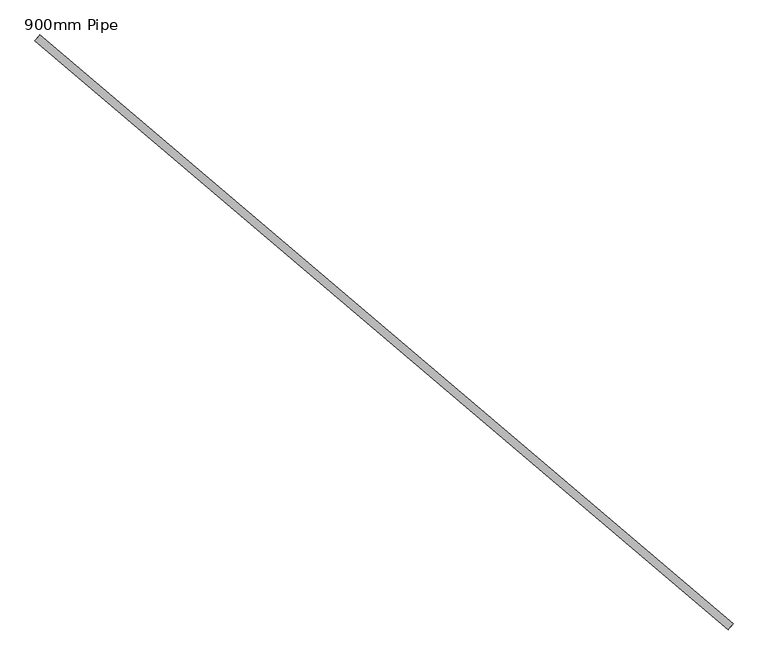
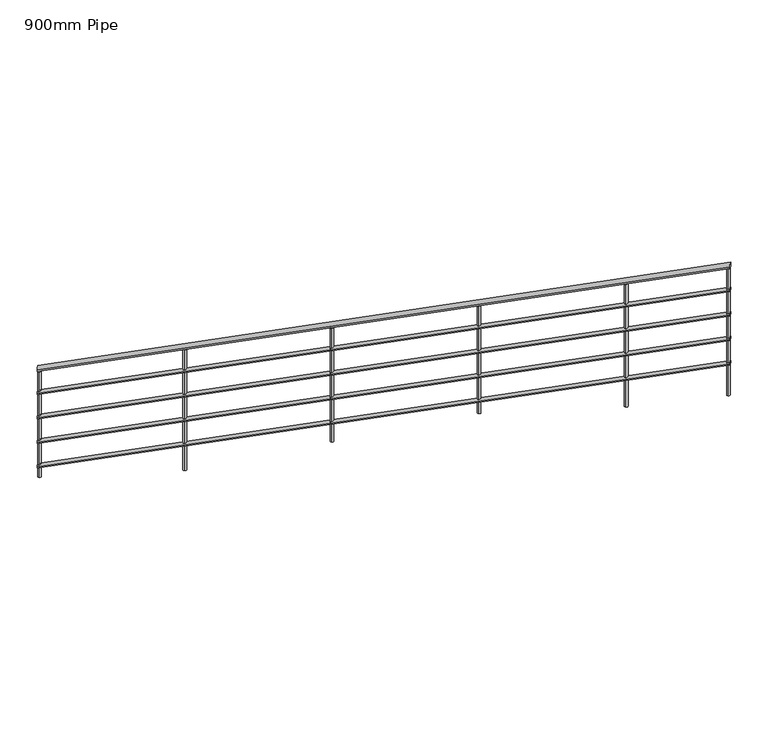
"""IFC4 building model written with IfcOpenShell, lengths in millimetres: railing geometry, 900mm Pipe."""

import ifcopenshell
import ifcopenshell.guid

model = None  # the IFC model being written
_history = None  # IfcOwnerHistory: only IFC2X3 demands one
_inside = {}  # id of a spatial element -> (the spatial element, [elements in it])
_under = {}  # id of a project, library or spatial element -> (it, [spatial elements below it])
_declared = {}  # id of a project -> (the project, [libraries it declares])
_typed = {}  # id of a type object -> (the type object, [elements of that type])
_made_of = {}  # id of a material, layer set ... -> (it, [elements and type objects made of it])


def new_model(schema):
    """Start an empty IFC model of exactly this schema.

    Asked for "IFC4X3", IfcOpenShell would pick the latest addendum, in which some entities
    have other attributes; the version numbers below select the first issue.
    IFC2X3 requires an IfcOwnerHistory on every rooted entity: one is made here for all.
    """
    global model, _history
    if schema == "IFC4X3":
        model = ifcopenshell.file(schema_version=(4, 3, 0, 0))
    else:
        model = ifcopenshell.file(schema=schema)
    _inside.clear()
    _under.clear()
    _declared.clear()
    _typed.clear()
    _made_of.clear()
    _history = None
    if model.schema == "IFC2X3":
        org = make("IfcOrganization", Name="unknown")
        user = make(
            "IfcPersonAndOrganization",
            ThePerson=make("IfcPerson", FamilyName="unknown"),
            TheOrganization=org,
        )
        app = make(
            "IfcApplication",
            ApplicationDeveloper=org,
            Version="unknown",
            ApplicationFullName="unknown",
            ApplicationIdentifier="unknown",
        )
        _history = make(
            "IfcOwnerHistory",
            OwningUser=user,
            OwningApplication=app,
            ChangeAction="ADDED",
            CreationDate=0,
        )
    return model


def make(cls, **values):
    """One entity of the class cls with the attributes given. An attribute that is None is left unset."""
    return model.create_entity(
        cls, **{name: value for name, value in values.items() if value is not None}
    )


def rooted(cls, **values):
    """An entity with a GlobalId (a new one), such as an element, a storey or a relation."""
    return make(cls, GlobalId=ifcopenshell.guid.new(), OwnerHistory=_history, **values)


def si_unit(unit_type, name, prefix=None):
    """IfcSIUnit, for example si_unit("LENGTHUNIT", "METRE", prefix="MILLI")."""
    return make("IfcSIUnit", UnitType=unit_type, Prefix=prefix, Name=name)


def assignment(units):
    """IfcUnitAssignment: the units of a project."""
    return None if units is None else make("IfcUnitAssignment", Units=units)


def point(xyz):
    """IfcCartesianPoint."""
    return None if xyz is None else make("IfcCartesianPoint", Coordinates=xyz)


def direction(xyz):
    """IfcDirection."""
    return None if xyz is None else make("IfcDirection", DirectionRatios=xyz)


def frame(location, z_axis=None, x_axis=None):
    """IfcAxis2Placement3D, a coordinate frame: its origin and axes. An axis left out is left unset."""
    return make(
        "IfcAxis2Placement3D",
        Location=point(location),
        Axis=direction(z_axis),
        RefDirection=direction(x_axis),
    )


def origin():
    """The frame at (0, 0, 0) with its axes left unset."""
    return frame((0.0, 0.0, 0.0))


def place(relative_to, where):
    """IfcLocalPlacement: puts the frame where relative to a parent placement (None: the world)."""
    return make(
        "IfcLocalPlacement", PlacementRelTo=relative_to, RelativePlacement=where
    )


def context(
    kind, dimensions, precision=None, world=None, true_north=None, identifier=None
):
    """IfcGeometricRepresentationContext, for example the 3D "Model" context."""
    return make(
        "IfcGeometricRepresentationContext",
        ContextIdentifier=identifier,
        ContextType=kind,
        CoordinateSpaceDimension=dimensions,
        Precision=precision,
        WorldCoordinateSystem=world,
        TrueNorth=true_north,
    )


def project(units=None, contexts=None):
    """IfcProject with its units and contexts."""
    return rooted(
        "IfcProject",
        Name="project",
        RepresentationContexts=contexts,
        UnitsInContext=assignment(units),
    )


def spatial(cls, under=None, at=None, **own):
    """A site, building, storey or space (cls), placed at a placement, below another one or the project."""
    s = rooted(cls, ObjectPlacement=at, **own)
    if under is not None:
        _under.setdefault(under.id(), (under, []))[1].append(s)
    return s


def circle_curve(where, radius):
    """IfcCircle in the frame where."""
    return make("IfcCircle", Position=where, Radius=radius)


def ellipse_curve(where, semi_axis1, semi_axis2):
    """IfcEllipse in the frame where."""
    return make(
        "IfcEllipse", Position=where, SemiAxis1=semi_axis1, SemiAxis2=semi_axis2
    )


def shape(context_of_items, identifier, shape_type, items):
    """IfcShapeRepresentation: the items that make up one representation, for example the "Body"."""
    return make(
        "IfcShapeRepresentation",
        ContextOfItems=context_of_items,
        RepresentationIdentifier=identifier,
        RepresentationType=shape_type,
        Items=items,
    )


def source(mapping_origin, context_of_items, identifier, shape_type, items):
    """IfcRepresentationMap: a shape defined once, which mapped items show again and again."""
    return make(
        "IfcRepresentationMap",
        MappingOrigin=mapping_origin,
        MappedRepresentation=shape(context_of_items, identifier, shape_type, items),
    )


def transform(
    local_origin,
    x_axis=None,
    y_axis=None,
    z_axis=None,
    scale=None,
    scale2=None,
    scale3=None,
    uniform=True,
):
    """IfcCartesianTransformationOperator3D, or its non-uniform kind. x_axis, y_axis, z_axis: its Axis1, 2, 3."""
    if uniform:
        return make(
            "IfcCartesianTransformationOperator3D",
            Axis1=direction(x_axis),
            Axis2=direction(y_axis),
            LocalOrigin=point(local_origin),
            Scale=scale,
            Axis3=direction(z_axis),
        )
    return make(
        "IfcCartesianTransformationOperator3DnonUniform",
        Axis1=direction(x_axis),
        Axis2=direction(y_axis),
        LocalOrigin=point(local_origin),
        Scale=scale,
        Axis3=direction(z_axis),
        Scale2=scale2,
        Scale3=scale3,
    )


def mapped(mapping_source, mapping_target):
    """IfcMappedItem: shows the shape of a source again, moved by a transform."""
    return make(
        "IfcMappedItem", MappingSource=mapping_source, MappingTarget=mapping_target
    )


def made_of(thing, what):
    """Note that an element or type object is made of a material, layer set ...; save() writes the relation."""
    if what is not None:
        _made_of.setdefault(what.id(), (what, []))[1].append(thing)
    return thing


def element(
    cls,
    number,
    at=None,
    inside=None,
    cuts=None,
    type_object=None,
    material=None,
    context=None,
    identifier="Body",
    shape_type=None,
    held_by="IfcProductDefinitionShape",
    body=None,
    shapes=None,
    **own,
):
    """One element of the class cls, such as IfcWall. Its Tag is "e" and its number.

    at: its placement. inside: the storey or other place that contains it. cuts: it is an
    opening in that element (IfcRelVoidsElement). A single representation is given by context,
    identifier, shape_type and body (its items); several are given by shapes. held_by: the class
    of the entity that holds the representations. save() writes the other relations.
    """
    e = rooted(cls, Tag="e%d" % number, ObjectPlacement=at, **own)
    if body is not None:
        shapes = [shape(context, identifier, shape_type, body)]
    if shapes is not None:
        e.Representation = make(held_by, Representations=shapes)
    if inside is not None:
        _inside.setdefault(inside.id(), (inside, []))[1].append(e)
    if cuts is not None:
        rooted(
            "IfcRelVoidsElement", RelatingBuildingElement=cuts, RelatedOpeningElement=e
        )
    if type_object is not None:
        _typed.setdefault(type_object.id(), (type_object, []))[1].append(e)
    return made_of(e, material)


def aggregate(whole, parts):
    """IfcRelAggregates: a whole, such as a stair, and the parts it consists of."""
    return rooted("IfcRelAggregates", RelatingObject=whole, RelatedObjects=parts)


def save(model, path):
    """Write the relations noted so far, then the file.

    IfcRelAggregates (storeys below a building ...), IfcRelContainedInSpatialStructure (elements
    in a storey), IfcRelDefinesByType, IfcRelAssociatesMaterial and IfcRelDeclares: one each for
    every whole, place, type object, material and project.
    """
    for whole, parts in _under.values():
        aggregate(whole, parts)
    for where, things in _inside.values():
        rooted(
            "IfcRelContainedInSpatialStructure",
            RelatedElements=things,
            RelatingStructure=where,
        )
    for kind, things in _typed.values():
        rooted("IfcRelDefinesByType", RelatedObjects=things, RelatingType=kind)
    for what, things in _made_of.values():
        rooted("IfcRelAssociatesMaterial", RelatedObjects=things, RelatingMaterial=what)
    for by, libraries in _declared.values():
        rooted("IfcRelDeclares", RelatingContext=by, RelatedDefinitions=libraries)
    model.write(path)


def plane_surface(at):
    """IfcPlane: the flat surface through the origin of the frame at, square to its z axis."""
    return make("IfcPlane", Position=at)


def cylinder_surface(at, radius):
    """IfcCylindricalSurface: all points at the distance radius from the z axis of the frame at."""
    return make("IfcCylindricalSurface", Position=at, Radius=radius)


def advanced_brep(points, edges, surfaces, faces):
    """IfcAdvancedBrep: a solid bounded by faces that lie on surfaces and meet in shared edges.

    An edge is (start, end): straight between two places in points (the first is 0);
    or (start, end, curve); or (start, end, curve, False) where it runs against its curve.
    A face is (place in surfaces, loops), or (place, loops, False) where it looks against
    its surface's normal. A loop lists edges by number (the first is 1), with a minus sign
    where the edge is run from its end to its start. The first loop is the outer one.
    """
    corners = [point(p) for p in points]
    vertices = [make("IfcVertexPoint", VertexGeometry=c) for c in corners]
    made = []
    for start, end, *more in edges:
        made.append(
            make(
                "IfcEdgeCurve",
                EdgeStart=vertices[start],
                EdgeEnd=vertices[end],
                EdgeGeometry=more[0] if more else make("IfcPolyline", Points=[corners[start], corners[end]]),
                SameSense=more[1] if len(more) > 1 else True,
            )
        )
    hull = []
    for where, loops, *sense in faces:
        bounds = []
        for j, loop in enumerate(loops):
            ring = [make("IfcOrientedEdge", EdgeElement=made[abs(k) - 1], Orientation=k > 0) for k in loop]
            bounds.append(
                make(
                    "IfcFaceOuterBound" if j == 0 else "IfcFaceBound",
                    Bound=make("IfcEdgeLoop", EdgeList=ring),
                    Orientation=True,
                )
            )
        hull.append(make("IfcAdvancedFace", Bounds=bounds, FaceSurface=surfaces[where], SameSense=sense[0] if sense else True))
    return make("IfcAdvancedBrep", Outer=make("IfcClosedShell", CfsFaces=hull))


def railing_900mm_pipe_89af0fe0(model_context):
    return source(origin(), model_context, "Body", "AdvancedBrep", [
        advanced_brep(
        [(808926.9693591, 44297.326696, 2758.386247), (808901.0747791, 44266.8394737, 2758.386247), (812514.7713681, 41249.9967354, 4192.7391882), (812488.8767881, 41219.5095131, 4192.7391882)],
        [
            (0, 1, ellipse_curve(frame((808914.0220691, 44282.0830849, 2758.386247), z_axis=(-0.7621805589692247, 0.6473644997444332, 0.0), x_axis=(0.0, 0.0, -1.0)), 20.9078706, 20.0)),
            (1, 0, ellipse_curve(frame((808914.0220691, 44282.0830849, 2758.386247), z_axis=(-0.7621805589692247, 0.6473644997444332, 0.0), x_axis=(0.0, 0.0, -1.0)), 20.9078706, 20.0)),
            (2, 3, ellipse_curve(frame((812501.8240781, 41234.7531243, 4192.7391882), z_axis=(0.7621805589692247, -0.6473644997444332, 0.0), x_axis=(0.0, 0.0, -1.0)), 20.9078706, 20.0)),
            (3, 2, ellipse_curve(frame((812501.8240781, 41234.7531243, 4192.7391882), z_axis=(0.7621805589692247, -0.6473644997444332, 0.0), x_axis=(0.0, 0.0, -1.0)), 20.9078706, 20.0)),
            (0, 2),
            (3, 1),
        ],
        [
            plane_surface(frame((808914.0220691, 44282.0830849, 2779.2941176), z_axis=(-0.7621805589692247, 0.6473644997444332, 0.0), x_axis=(0.6473644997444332, 0.7621805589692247, 0.0))),
            plane_surface(frame((812501.8240781, 41234.7531243, 4213.6470588), z_axis=(0.7621805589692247, -0.6473644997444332, 0.0), x_axis=(0.6473644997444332, 0.7621805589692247, 0.0))),
            cylinder_surface(frame((808918.4652448, 44278.3092361, 2760.1625663), z_axis=(-0.7290848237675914, 0.6192543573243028, -0.29147789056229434), x_axis=(-0.6473644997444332, -0.7621805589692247, 0.0)), 20.0),
        ],
        [
            (0, [[1, 2]]),
            (1, [[3, 4]]),
            (2, [[-1, 5, -4, 6]]),
            (2, [[-2, -6, -3, -5]]),
        ],
    ),
        advanced_brep(
        [(808923.7325366, 44293.5157932, 2563.6132147), (808904.3116016, 44270.6503765, 2563.6132147), (812511.5345456, 41246.1858326, 3997.9661558), (812492.1136106, 41223.3204159, 3997.9661558)],
        [
            (0, 1, ellipse_curve(frame((808914.0220691, 44282.0830849, 2563.6132147), z_axis=(-0.7621805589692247, 0.6473644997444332, 0.0), x_axis=(0.0, 0.0, -1.0)), 15.680903, 15.0)),
            (1, 0, ellipse_curve(frame((808914.0220691, 44282.0830849, 2563.6132147), z_axis=(-0.7621805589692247, 0.6473644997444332, 0.0), x_axis=(0.0, 0.0, -1.0)), 15.680903, 15.0)),
            (2, 3, ellipse_curve(frame((812501.8240781, 41234.7531243, 3997.9661558), z_axis=(0.7621805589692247, -0.6473644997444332, 0.0), x_axis=(0.0, 0.0, -1.0)), 15.680903, 15.0)),
            (3, 2, ellipse_curve(frame((812501.8240781, 41234.7531243, 3997.9661558), z_axis=(0.7621805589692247, -0.6473644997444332, 0.0), x_axis=(0.0, 0.0, -1.0)), 15.680903, 15.0)),
            (0, 2),
            (3, 1),
        ],
        [
            plane_surface(frame((808914.0220691, 44282.0830849, 2579.2941176), z_axis=(-0.7621805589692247, 0.6473644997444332, 0.0), x_axis=(0.6473644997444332, 0.7621805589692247, 0.0))),
            plane_surface(frame((812501.8240781, 41234.7531243, 4013.6470588), z_axis=(0.7621805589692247, -0.6473644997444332, 0.0), x_axis=(0.6473644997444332, 0.7621805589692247, 0.0))),
            cylinder_surface(frame((808917.3544508, 44279.2526983, 2564.9454542), z_axis=(-0.7290848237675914, 0.6192543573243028, -0.29147789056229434), x_axis=(-0.6473644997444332, -0.7621805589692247, 0.0)), 15.0),
        ],
        [
            (0, [[1, 2]]),
            (1, [[3, 4]]),
            (2, [[-1, 5, -4, 6]]),
            (2, [[-2, -6, -3, -5]]),
        ],
    ),
        advanced_brep(
        [(808923.7325366, 44293.5157932, 2363.6132147), (808904.3116016, 44270.6503765, 2363.6132147), (812511.5345456, 41246.1858326, 3797.9661558), (812492.1136106, 41223.3204159, 3797.9661558)],
        [
            (0, 1, ellipse_curve(frame((808914.0220691, 44282.0830849, 2363.6132147), z_axis=(-0.7621805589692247, 0.6473644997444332, 0.0), x_axis=(0.0, 0.0, -1.0)), 15.680903, 15.0)),
            (1, 0, ellipse_curve(frame((808914.0220691, 44282.0830849, 2363.6132147), z_axis=(-0.7621805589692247, 0.6473644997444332, 0.0), x_axis=(0.0, 0.0, -1.0)), 15.680903, 15.0)),
            (2, 3, ellipse_curve(frame((812501.8240781, 41234.7531243, 3797.9661558), z_axis=(0.7621805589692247, -0.6473644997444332, 0.0), x_axis=(0.0, 0.0, -1.0)), 15.680903, 15.0)),
            (3, 2, ellipse_curve(frame((812501.8240781, 41234.7531243, 3797.9661558), z_axis=(0.7621805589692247, -0.6473644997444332, 0.0), x_axis=(0.0, 0.0, -1.0)), 15.680903, 15.0)),
            (0, 2),
            (3, 1),
        ],
        [
            plane_surface(frame((808914.0220691, 44282.0830849, 2379.2941176), z_axis=(-0.7621805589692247, 0.6473644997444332, 0.0), x_axis=(0.6473644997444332, 0.7621805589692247, 0.0))),
            plane_surface(frame((812501.8240781, 41234.7531243, 3813.6470588), z_axis=(0.7621805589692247, -0.6473644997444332, 0.0), x_axis=(0.6473644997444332, 0.7621805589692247, 0.0))),
            cylinder_surface(frame((808917.3544508, 44279.2526983, 2364.9454542), z_axis=(-0.7290848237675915, 0.6192543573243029, -0.29147789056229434), x_axis=(-0.6473644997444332, -0.7621805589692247, 0.0)), 15.0),
        ],
        [
            (0, [[1, 2]]),
            (1, [[3, 4]]),
            (2, [[-1, 5, -4, 6]]),
            (2, [[-2, -6, -3, -5]]),
        ],
    ),
        advanced_brep(
        [(808923.7325366, 44293.5157932, 2163.6132147), (808904.3116016, 44270.6503765, 2163.6132147), (812511.5345456, 41246.1858326, 3597.9661558), (812492.1136106, 41223.3204159, 3597.9661558)],
        [
            (0, 1, ellipse_curve(frame((808914.0220691, 44282.0830849, 2163.6132147), z_axis=(-0.7621805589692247, 0.6473644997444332, 0.0), x_axis=(0.0, 0.0, -1.0)), 15.680903, 15.0)),
            (1, 0, ellipse_curve(frame((808914.0220691, 44282.0830849, 2163.6132147), z_axis=(-0.7621805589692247, 0.6473644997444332, 0.0), x_axis=(0.0, 0.0, -1.0)), 15.680903, 15.0)),
            (2, 3, ellipse_curve(frame((812501.8240781, 41234.7531243, 3597.9661558), z_axis=(0.7621805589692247, -0.6473644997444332, 0.0), x_axis=(0.0, 0.0, -1.0)), 15.680903, 15.0)),
            (3, 2, ellipse_curve(frame((812501.8240781, 41234.7531243, 3597.9661558), z_axis=(0.7621805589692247, -0.6473644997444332, 0.0), x_axis=(0.0, 0.0, -1.0)), 15.680903, 15.0)),
            (0, 2),
            (3, 1),
        ],
        [
            plane_surface(frame((808914.0220691, 44282.0830849, 2179.2941176), z_axis=(-0.7621805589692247, 0.6473644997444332, 0.0), x_axis=(0.6473644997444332, 0.7621805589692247, 0.0))),
            plane_surface(frame((812501.8240781, 41234.7531243, 3613.6470588), z_axis=(0.7621805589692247, -0.6473644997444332, 0.0), x_axis=(0.6473644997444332, 0.7621805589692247, 0.0))),
            cylinder_surface(frame((808917.3544508, 44279.2526983, 2164.9454542), z_axis=(-0.7290848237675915, 0.6192543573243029, -0.29147789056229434), x_axis=(-0.6473644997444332, -0.7621805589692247, 0.0)), 15.0),
        ],
        [
            (0, [[1, 2]]),
            (1, [[3, 4]]),
            (2, [[-1, 5, -4, 6]]),
            (2, [[-2, -6, -3, -5]]),
        ],
    ),
        advanced_brep(
        [(808923.7325366, 44293.5157932, 1963.6132147), (808904.3116016, 44270.6503765, 1963.6132147), (812511.5345456, 41246.1858326, 3397.9661558), (812492.1136106, 41223.3204159, 3397.9661558)],
        [
            (0, 1, ellipse_curve(frame((808914.0220691, 44282.0830849, 1963.6132147), z_axis=(-0.7621805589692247, 0.6473644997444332, 0.0), x_axis=(0.0, 0.0, -1.0)), 15.680903, 15.0)),
            (1, 0, ellipse_curve(frame((808914.0220691, 44282.0830849, 1963.6132147), z_axis=(-0.7621805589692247, 0.6473644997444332, 0.0), x_axis=(0.0, 0.0, -1.0)), 15.680903, 15.0)),
            (2, 3, ellipse_curve(frame((812501.8240781, 41234.7531243, 3397.9661558), z_axis=(0.7621805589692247, -0.6473644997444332, 0.0), x_axis=(0.0, 0.0, -1.0)), 15.680903, 15.0)),
            (3, 2, ellipse_curve(frame((812501.8240781, 41234.7531243, 3397.9661558), z_axis=(0.7621805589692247, -0.6473644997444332, 0.0), x_axis=(0.0, 0.0, -1.0)), 15.680903, 15.0)),
            (0, 2),
            (3, 1),
        ],
        [
            plane_surface(frame((808914.0220691, 44282.0830849, 1979.2941176), z_axis=(-0.7621805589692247, 0.6473644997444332, 0.0), x_axis=(0.6473644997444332, 0.7621805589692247, 0.0))),
            plane_surface(frame((812501.8240781, 41234.7531243, 3413.6470588), z_axis=(0.7621805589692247, -0.6473644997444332, 0.0), x_axis=(0.6473644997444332, 0.7621805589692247, 0.0))),
            cylinder_surface(frame((808917.3544508, 44279.2526983, 1964.9454542), z_axis=(-0.7290848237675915, 0.6192543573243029, -0.29147789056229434), x_axis=(-0.6473644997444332, -0.7621805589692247, 0.0)), 15.0),
        ],
        [
            (0, [[1, 2]]),
            (1, [[3, 4]]),
            (2, [[-1, 5, -4, 6]]),
            (2, [[-2, -6, -3, -5]]),
        ],
    ),
        advanced_brep(
        [(811954.6522487, 41683.0978289, 3956.3147824), (811954.6522487, 41683.0978289, 2955.0588235), (811970.8363612, 41702.1523429, 2955.0588235), (811970.8363612, 41702.1523429, 3956.3147824)],
        [
            (0, 1),
            (1, 2, circle_curve(frame((811962.744305, 41692.6250859, 2955.0588235), z_axis=(0.0, 0.0, 1.0), x_axis=(0.6473644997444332, 0.7621805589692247, 0.0)), 12.5)),
            (2, 3),
            (3, 0, ellipse_curve(frame((811962.744305, 41692.6250859, 3956.3147824), z_axis=(0.2221587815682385, -0.1886924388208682, -0.9565775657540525), x_axis=(0.729084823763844, -0.6192543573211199, 0.2914778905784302)), 13.0674191, 12.5)),
            (0, 3, ellipse_curve(frame((811962.744305, 41692.6250859, 3956.3147824), z_axis=(0.2221587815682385, -0.1886924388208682, -0.9565775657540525), x_axis=(0.729084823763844, -0.6192543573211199, 0.2914778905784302)), 13.0674191, 12.5)),
            (2, 1, circle_curve(frame((811962.744305, 41692.6250859, 2955.0588235), z_axis=(0.0, 0.0, 1.0), x_axis=(0.6473644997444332, 0.7621805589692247, 0.0)), 12.5)),
        ],
        [
            cylinder_surface(frame((811962.744305, 41692.6250859, 2855.0588235), z_axis=(0.0, 0.0, 1.0), x_axis=(0.6473644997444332, 0.7621805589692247, 0.0)), 12.5),
            plane_surface(frame((811997.9829315, 41695.4954874, 3963.9325099), z_axis=(-0.2221587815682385, 0.1886924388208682, 0.9565775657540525), x_axis=(-0.6473644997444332, -0.7621805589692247, 0.0))),
            plane_surface(frame((811959.8739035, 41727.8637124, 2955.0588235), z_axis=(0.0, 0.0, -1.0), x_axis=(-0.6473644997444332, -0.7621805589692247, 0.0))),
        ],
        [
            (0, [[1, 2, 3, 4]]),
            (0, [[-1, 5, -3, 6]]),
            (1, [[-4, -5]]),
            (2, [[-2, -6]]),
        ],
    ),
        advanced_brep(
        [(811192.4716898, 42330.4623286, 3651.6056809), (811192.4716898, 42330.4623286, 2775.7647059), (811208.6558023, 42349.5168426, 2775.7647059), (811208.6558023, 42349.5168426, 3651.6056809)],
        [
            (0, 1),
            (1, 2, circle_curve(frame((811200.563746, 42339.9895856, 2775.7647059), z_axis=(0.0, 0.0, 1.0), x_axis=(0.6473644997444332, 0.7621805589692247, 0.0)), 12.5)),
            (2, 3),
            (3, 0, ellipse_curve(frame((811200.563746, 42339.9895856, 3651.6056809), z_axis=(0.2221587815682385, -0.1886924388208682, -0.9565775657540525), x_axis=(0.729084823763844, -0.6192543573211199, 0.2914778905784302)), 13.0674191, 12.5)),
            (0, 3, ellipse_curve(frame((811200.563746, 42339.9895856, 3651.6056809), z_axis=(0.2221587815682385, -0.1886924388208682, -0.9565775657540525), x_axis=(0.729084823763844, -0.6192543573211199, 0.2914778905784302)), 13.0674191, 12.5)),
            (2, 1, circle_curve(frame((811200.563746, 42339.9895856, 2775.7647059), z_axis=(0.0, 0.0, 1.0), x_axis=(0.6473644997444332, 0.7621805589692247, 0.0)), 12.5)),
        ],
        [
            cylinder_surface(frame((811200.563746, 42339.9895856, 2675.7647059), z_axis=(0.0, 0.0, 1.0), x_axis=(0.6473644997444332, 0.7621805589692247, 0.0)), 12.5),
            plane_surface(frame((811235.8023725, 42342.8599871, 3659.2234084), z_axis=(-0.2221587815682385, 0.1886924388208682, 0.9565775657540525), x_axis=(-0.6473644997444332, -0.7621805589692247, 0.0))),
            plane_surface(frame((811197.6933445, 42375.2282121, 2775.7647059), z_axis=(0.0, 0.0, -1.0), x_axis=(-0.6473644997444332, -0.7621805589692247, 0.0))),
        ],
        [
            (0, [[1, 2, 3, 4]]),
            (0, [[-1, 5, -3, 6]]),
            (1, [[-4, -5]]),
            (2, [[-2, -6]]),
        ],
    ),
        advanced_brep(
        [(810430.2911308, 42977.8268284, 3346.8965794), (810430.2911308, 42977.8268284, 2417.1764706), (810446.4752433, 42996.8813424, 2417.1764706), (810446.4752433, 42996.8813424, 3346.8965794)],
        [
            (0, 1),
            (1, 2, circle_curve(frame((810438.3831871, 42987.3540854, 2417.1764706), z_axis=(0.0, 0.0, 1.0), x_axis=(0.6473644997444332, 0.7621805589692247, 0.0)), 12.5)),
            (2, 3),
            (3, 0, ellipse_curve(frame((810438.3831871, 42987.3540854, 3346.8965794), z_axis=(0.2221587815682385, -0.1886924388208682, -0.9565775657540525), x_axis=(0.729084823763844, -0.6192543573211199, 0.2914778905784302)), 13.0674191, 12.5)),
            (0, 3, ellipse_curve(frame((810438.3831871, 42987.3540854, 3346.8965794), z_axis=(0.2221587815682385, -0.1886924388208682, -0.9565775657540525), x_axis=(0.729084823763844, -0.6192543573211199, 0.2914778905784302)), 13.0674191, 12.5)),
            (2, 1, circle_curve(frame((810438.3831871, 42987.3540854, 2417.1764706), z_axis=(0.0, 0.0, 1.0), x_axis=(0.6473644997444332, 0.7621805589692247, 0.0)), 12.5)),
        ],
        [
            cylinder_surface(frame((810438.3831871, 42987.3540854, 2317.1764706), z_axis=(0.0, 0.0, 1.0), x_axis=(0.6473644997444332, 0.7621805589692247, 0.0)), 12.5),
            plane_surface(frame((810473.6218135, 42990.2244869, 3354.5143069), z_axis=(-0.2221587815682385, 0.1886924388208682, 0.9565775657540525), x_axis=(-0.6473644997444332, -0.7621805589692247, 0.0))),
            plane_surface(frame((810435.5127856, 43022.5927118, 2417.1764706), z_axis=(0.0, 0.0, -1.0), x_axis=(-0.6473644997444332, -0.7621805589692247, 0.0))),
        ],
        [
            (0, [[1, 2, 3, 4]]),
            (0, [[-1, 5, -3, 6]]),
            (1, [[-4, -5]]),
            (2, [[-2, -6]]),
        ],
    ),
        advanced_brep(
        [(809668.1105718, 43625.1913281, 3042.1874779), (809668.1105718, 43625.1913281, 2058.5882353), (809684.2946843, 43644.2458421, 2058.5882353), (809684.2946843, 43644.2458421, 3042.1874779)],
        [
            (0, 1),
            (1, 2, circle_curve(frame((809676.2026281, 43634.7185851, 2058.5882353), z_axis=(0.0, 0.0, 1.0), x_axis=(0.6473644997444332, 0.7621805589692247, 0.0)), 12.5)),
            (2, 3),
            (3, 0, ellipse_curve(frame((809676.2026281, 43634.7185851, 3042.1874779), z_axis=(0.22215878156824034, -0.18869243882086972, -0.9565775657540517), x_axis=(0.7290848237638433, -0.6192543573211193, 0.29147789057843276)), 13.0674191, 12.5)),
            (0, 3, ellipse_curve(frame((809676.2026281, 43634.7185851, 3042.1874779), z_axis=(0.22215878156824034, -0.18869243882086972, -0.9565775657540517), x_axis=(0.7290848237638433, -0.6192543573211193, 0.29147789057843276)), 13.0674191, 12.5)),
            (2, 1, circle_curve(frame((809676.2026281, 43634.7185851, 2058.5882353), z_axis=(0.0, 0.0, 1.0), x_axis=(0.6473644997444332, 0.7621805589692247, 0.0)), 12.5)),
        ],
        [
            cylinder_surface(frame((809676.2026281, 43634.7185851, 1958.5882353), z_axis=(0.0, 0.0, 1.0), x_axis=(0.6473644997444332, 0.7621805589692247, 0.0)), 12.5),
            plane_surface(frame((809711.4412546, 43637.5889866, 3049.8052054), z_axis=(-0.22215878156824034, 0.18869243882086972, 0.9565775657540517), x_axis=(-0.6473644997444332, -0.7621805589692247, 0.0))),
            plane_surface(frame((809673.3322266, 43669.9572116, 2058.5882353), z_axis=(0.0, 0.0, -1.0), x_axis=(-0.6473644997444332, -0.7621805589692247, 0.0))),
        ],
        [
            (0, [[1, 2, 3, 4]]),
            (0, [[-1, 5, -3, 6]]),
            (1, [[-4, -5]]),
            (2, [[-2, -6]]),
        ],
    ),
        advanced_brep(
        [(812484.2047649, 41233.3179235, 4168.0224538), (812484.2047649, 41233.3179235, 3134.3529412), (812500.3888774, 41252.3724375, 3134.3529412), (812500.3888774, 41252.3724375, 4168.0224538)],
        [
            (0, 1),
            (1, 2, circle_curve(frame((812492.2968211, 41242.8451805, 3134.3529412), z_axis=(0.0, 0.0, 1.0), x_axis=(0.6473644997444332, 0.7621805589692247, 0.0)), 12.5)),
            (2, 3),
            (3, 0, ellipse_curve(frame((812492.2968211, 41242.8451805, 4168.0224538), z_axis=(0.2221587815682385, -0.1886924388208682, -0.9565775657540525), x_axis=(0.729084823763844, -0.6192543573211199, 0.2914778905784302)), 13.0674191, 12.5)),
            (0, 3, ellipse_curve(frame((812492.2968211, 41242.8451805, 4168.0224538), z_axis=(0.2221587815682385, -0.1886924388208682, -0.9565775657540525), x_axis=(0.729084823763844, -0.6192543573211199, 0.2914778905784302)), 13.0674191, 12.5)),
            (2, 1, circle_curve(frame((812492.2968211, 41242.8451805, 3134.3529412), z_axis=(0.0, 0.0, 1.0), x_axis=(0.6473644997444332, 0.7621805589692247, 0.0)), 12.5)),
        ],
        [
            cylinder_surface(frame((812492.2968211, 41242.8451805, 3034.3529412), z_axis=(0.0, 0.0, 1.0), x_axis=(0.6473644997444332, 0.7621805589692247, 0.0)), 12.5),
            plane_surface(frame((812527.5354476, 41245.715582, 4175.6401813), z_axis=(-0.2221587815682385, 0.1886924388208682, 0.9565775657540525), x_axis=(-0.6473644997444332, -0.7621805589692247, 0.0))),
            plane_surface(frame((812489.4264197, 41278.083807, 3134.3529412), z_axis=(0.0, 0.0, -1.0), x_axis=(-0.6473644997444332, -0.7621805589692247, 0.0))),
        ],
        [
            (0, [[1, 2, 3, 4]]),
            (0, [[-1, 5, -3, 6]]),
            (1, [[-4, -5]]),
            (2, [[-2, -6]]),
        ],
    ),
        advanced_brep(
        [(808915.4572699, 44264.4637716, 2741.2872401), (808915.4572699, 44264.4637716, 1879.2941176), (808931.6413824, 44283.5182856, 1879.2941176), (808931.6413824, 44283.5182856, 2741.2872401)],
        [
            (0, 1),
            (1, 2, circle_curve(frame((808923.5493261, 44273.9910286, 1879.2941176), z_axis=(0.0, 0.0, 1.0), x_axis=(0.6473644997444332, 0.7621805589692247, 0.0)), 12.5)),
            (2, 3),
            (3, 0, ellipse_curve(frame((808923.5493261, 44273.9910286, 2741.2872401), z_axis=(0.22215878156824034, -0.18869243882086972, -0.9565775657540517), x_axis=(0.7290848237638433, -0.6192543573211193, 0.29147789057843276)), 13.0674191, 12.5)),
            (0, 3, ellipse_curve(frame((808923.5493261, 44273.9910286, 2741.2872401), z_axis=(0.22215878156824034, -0.18869243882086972, -0.9565775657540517), x_axis=(0.7290848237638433, -0.6192543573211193, 0.29147789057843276)), 13.0674191, 12.5)),
            (2, 1, circle_curve(frame((808923.5493261, 44273.9910286, 1879.2941176), z_axis=(0.0, 0.0, 1.0), x_axis=(0.6473644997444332, 0.7621805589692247, 0.0)), 12.5)),
        ],
        [
            cylinder_surface(frame((808923.5493261, 44273.9910286, 1779.2941176), z_axis=(0.0, 0.0, 1.0), x_axis=(0.6473644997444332, 0.7621805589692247, 0.0)), 12.5),
            plane_surface(frame((808958.7879526, 44276.8614301, 2748.9049677), z_axis=(-0.22215878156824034, 0.18869243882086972, 0.9565775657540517), x_axis=(-0.6473644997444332, -0.7621805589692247, 0.0))),
            plane_surface(frame((808920.6789246, 44309.2296551, 1879.2941176), z_axis=(0.0, 0.0, -1.0), x_axis=(-0.6473644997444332, -0.7621805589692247, 0.0))),
        ],
        [
            (0, [[1, 2, 3, 4]]),
            (0, [[-1, 5, -3, 6]]),
            (1, [[-4, -5]]),
            (2, [[-2, -6]]),
        ],
    ),
    ])


if __name__ == "__main__":
    model = new_model("IFC4")
    model_context = context("Model", 3, world=origin())
    ifc_project = project(units=[si_unit("LENGTHUNIT", "METRE", prefix="MILLI")], contexts=[model_context])
    site = spatial("IfcSite", under=ifc_project)
    building = spatial("IfcBuilding", under=site)
    placement = place(None, origin())
    railing_900mm_pipe_shape = railing_900mm_pipe_89af0fe0(model_context)
    element("IfcRailing", 1, ObjectType="900mm Pipe", at=placement, inside=building, context=model_context, shape_type="MappedRepresentation", body=[
        mapped(railing_900mm_pipe_shape, transform((0.0, 0.0, 0.0), x_axis=(1.0, 0.0, 0.0), y_axis=(0.0, 1.0, 0.0), z_axis=(0.0, 0.0, 1.0))),
    ])
    save(model, "model.ifc")
